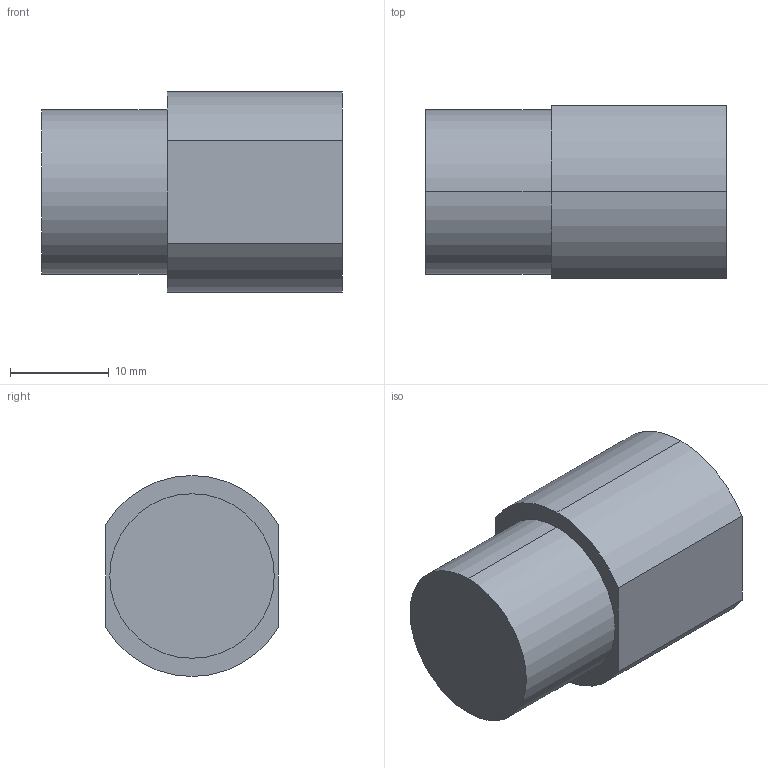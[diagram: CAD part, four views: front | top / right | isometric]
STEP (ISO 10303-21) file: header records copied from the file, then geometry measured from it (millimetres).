
FILE_DESCRIPTION (( 'STEP AP214' ), '1' );
FILE_NAME ('Adapter- 04 WK to NPT.STEP', '2014-07-24T14:22:06', ( '' ), ( '' ), 'SwSTEP 2.0', 'SolidWorks 2012', '' );
FILE_SCHEMA (( 'AUTOMOTIVE_DESIGN' ));
Length unit declared in the file: inch
Products named in the file (1): Adapter- 04 WK to NPT
Bounding box: 30.43 x 17.46 x 20.32 mm (x, y, z)
Volume: 6420.7 mm3; surface area: 2911.6 mm2
Topology: 1 solids, 1 shells, 13 faces, 27 edges, 18 vertices
Faces by surface type: cylinder 7, plane 6
Entity records: 434 total; most frequent: DIRECTION 69, CARTESIAN_POINT 59, ORIENTED_EDGE 54, AXIS2_PLACEMENT_3D 28, EDGE_CURVE 27, VERTEX_POINT 18, EDGE_LOOP 15, CIRCLE 14
